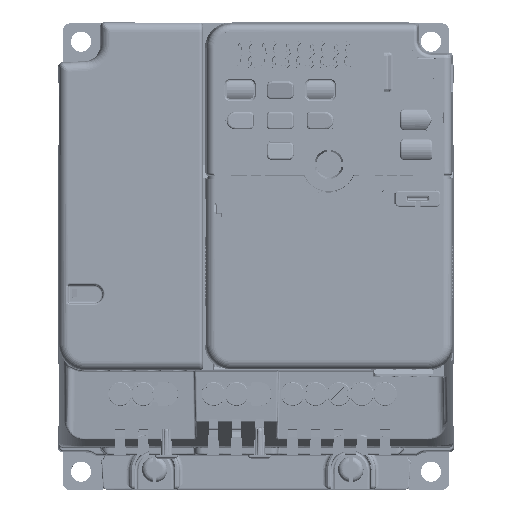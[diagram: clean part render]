
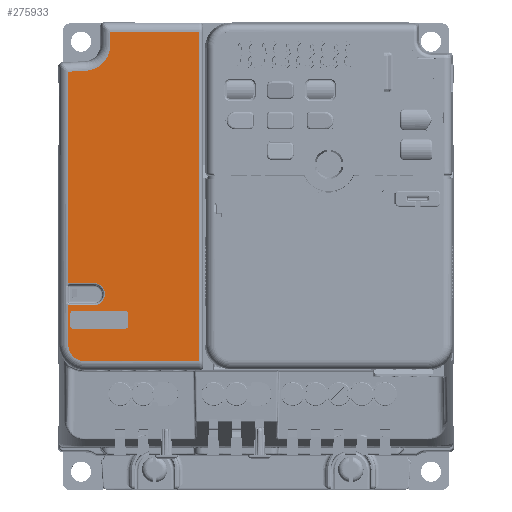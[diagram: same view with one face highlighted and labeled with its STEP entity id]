
A CAD part, top view. The second image highlights one B-rep face of the part: STEP entity #275933.
In plain terms, the highlighted planar face has unit normal (0, 0, 1).
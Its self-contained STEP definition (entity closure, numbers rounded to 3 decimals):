
#222547=DIRECTION('',(1.,0.,0.));
#222548=VECTOR('',#222547,31.378);
#222549=CARTESIAN_POINT('',(-47.,35.1,70.8));
#222550=LINE('',#222549,#222548);
#222566=DIRECTION('',(0.999,0.052,0.));
#222567=VECTOR('',#222566,4.873);
#222568=CARTESIAN_POINT('',(-51.5,114.525,70.8));
#222569=LINE('',#222568,#222567);
#222570=CARTESIAN_POINT('',(-47.,121.77,70.8));
#222571=DIRECTION('',(0.,0.,1.));
#222572=DIRECTION('',(0.052,-0.999,0.));
#222573=AXIS2_PLACEMENT_3D('',#222570,#222571,#222572);
#222575=CARTESIAN_POINT('',(-47.,39.6,70.8));
#222576=DIRECTION('',(0.,0.,-1.));
#222577=DIRECTION('',(0.,-1.,0.));
#222578=AXIS2_PLACEMENT_3D('',#222575,#222576,#222577);
#222580=CARTESIAN_POINT('',(-51.5,50.566,
70.8));
#222581=CARTESIAN_POINT('',(-51.453,50.542,
70.8));
#222582=CARTESIAN_POINT('',(-51.356,50.502,
70.8));
#222583=CARTESIAN_POINT('',(-51.201,50.465,
70.8));
#222584=CARTESIAN_POINT('',(-51.097,50.456,
70.8));
#222585=CARTESIAN_POINT('',(-51.044,50.456,
70.8));
#222587=CARTESIAN_POINT('',(-44.5,53.5,70.8));
#222588=DIRECTION('',(0.,0.,1.));
#222589=DIRECTION('',(0.,-1.,0.));
#222590=AXIS2_PLACEMENT_3D('',#222587,#222588,#222589);
#222592=CARTESIAN_POINT('',(-44.5,53.5,70.8));
#222593=DIRECTION('',(0.,0.,1.));
#222594=DIRECTION('',(0.058,0.998,0.));
#222595=AXIS2_PLACEMENT_3D('',#222592,#222593,#222594);
#222597=CARTESIAN_POINT('',(-51.044,56.544,
70.8));
#222598=CARTESIAN_POINT('',(-51.097,56.544,
70.8));
#222599=CARTESIAN_POINT('',(-51.202,56.535,
70.8));
#222600=CARTESIAN_POINT('',(-51.356,56.498,
70.8));
#222601=CARTESIAN_POINT('',(-51.453,56.458,
70.8));
#222602=CARTESIAN_POINT('',(-51.5,56.434,70.8));
#222604=CARTESIAN_POINT('',(-50.,45.,70.8));
#222605=DIRECTION('',(0.,0.,1.));
#222606=DIRECTION('',(-1.,0.,0.));
#222607=AXIS2_PLACEMENT_3D('',#222604,#222605,#222606);
#222609=CARTESIAN_POINT('',(-36.,45.,70.8));
#222610=DIRECTION('',(0.,0.,1.));
#222611=DIRECTION('',(0.,-1.,0.));
#222612=AXIS2_PLACEMENT_3D('',#222609,#222610,#222611);
#222614=CARTESIAN_POINT('',(-36.,48.,70.8));
#222615=DIRECTION('',(0.,0.,1.));
#222616=DIRECTION('',(1.,0.,0.));
#222617=AXIS2_PLACEMENT_3D('',#222614,#222615,#222616);
#222619=CARTESIAN_POINT('',(-50.,48.,70.8));
#222620=DIRECTION('',(0.,0.,1.));
#222621=DIRECTION('',(0.,1.,0.));
#222622=AXIS2_PLACEMENT_3D('',#222619,#222620,#222621);
#222634=CARTESIAN_POINT('',(-51.5,50.566,
70.8));
#222636=DIRECTION('',(0.,-1.,
0.));
#222637=VECTOR('',#222636,10.966);
#222638=CARTESIAN_POINT('',(-51.5,50.566,
70.8));
#222639=LINE('',#222638,#222637);
#222650=CARTESIAN_POINT('',(-51.5,114.525,70.8));
#222652=DIRECTION('',(0.,-1.,0.));
#222653=VECTOR('',#222652,58.091);
#222654=CARTESIAN_POINT('',(-51.5,114.525,70.8));
#222655=LINE('',#222654,#222653);
#222701=DIRECTION('',(1.,0.,0.));
#222702=VECTOR('',#222701,6.544);
#222703=CARTESIAN_POINT('',(-51.044,56.544,
70.8));
#222704=LINE('',#222703,#222702);
#222745=DIRECTION('',(-1.,0.,0.));
#222746=VECTOR('',#222745,6.544);
#222747=CARTESIAN_POINT('',(-44.5,50.456,70.8));
#222748=LINE('',#222747,#222746);
#231701=DIRECTION('',(0.,1.,0.));
#231702=VECTOR('',#231701,90.4);
#231703=CARTESIAN_POINT('',(-15.622,35.1,
70.8));
#231704=LINE('',#231703,#231702);
#231717=DIRECTION('',(-1.,0.,0.));
#231718=VECTOR('',#231717,24.378);
#231719=CARTESIAN_POINT('',(-15.622,125.5,
70.8));
#231720=LINE('',#231719,#231718);
#231736=DIRECTION('',(0.,-1.,0.));
#231737=VECTOR('',#231736,3.73);
#231738=CARTESIAN_POINT('',(-40.,125.5,70.8));
#231739=LINE('',#231738,#231737);
#238896=DIRECTION('',(0.,1.,0.));
#238897=VECTOR('',#238896,3.);
#238898=CARTESIAN_POINT('',(-51.,45.,70.8));
#238899=LINE('',#238898,#238897);
#239252=DIRECTION('',(1.,0.,0.));
#239253=VECTOR('',#239252,14.);
#239254=CARTESIAN_POINT('',(-50.,49.,70.8));
#239255=LINE('',#239254,#239253);
#239264=DIRECTION('',(0.,-1.,0.));
#239265=VECTOR('',#239264,3.);
#239266=CARTESIAN_POINT('',(-35.,48.,70.8));
#239267=LINE('',#239266,#239265);
#239276=DIRECTION('',(-1.,0.,0.));
#239277=VECTOR('',#239276,14.);
#239278=CARTESIAN_POINT('',(-36.,44.,70.8));
#239279=LINE('',#239278,#239277);
#253446=VERTEX_POINT('',#222634);
#253447=CARTESIAN_POINT('',(-51.5,39.6,70.8));
#253448=VERTEX_POINT('',#253447);
#253453=VERTEX_POINT('',#222650);
#253454=CARTESIAN_POINT('',(-51.5,56.434,70.8));
#253455=VERTEX_POINT('',#253454);
#253456=CARTESIAN_POINT('',(-46.634,114.78,70.8));
#253457=VERTEX_POINT('',#253456);
#253458=CARTESIAN_POINT('',(-40.,121.77,70.8));
#253459=VERTEX_POINT('',#253458);
#253460=CARTESIAN_POINT('',(-40.,125.5,70.8));
#253461=VERTEX_POINT('',#253460);
#253462=CARTESIAN_POINT('',(-15.622,125.5,
70.8));
#253463=VERTEX_POINT('',#253462);
#253464=CARTESIAN_POINT('',(-15.622,35.1,
70.8));
#253465=VERTEX_POINT('',#253464);
#253466=CARTESIAN_POINT('',(-47.,35.1,70.8));
#253467=VERTEX_POINT('',#253466);
#253468=VERTEX_POINT('',#222585);
#253469=CARTESIAN_POINT('',(-44.5,50.456,70.8));
#253470=VERTEX_POINT('',#253469);
#253471=CARTESIAN_POINT('',(-44.322,56.539,70.8));
#253472=VERTEX_POINT('',#253471);
#253473=CARTESIAN_POINT('',(-44.5,56.544,70.8));
#253474=VERTEX_POINT('',#253473);
#253475=CARTESIAN_POINT('',(-51.044,56.544,
70.8));
#253476=VERTEX_POINT('',#253475);
#253477=CARTESIAN_POINT('',(-51.,45.,70.8));
#253478=CARTESIAN_POINT('',(-51.,48.,70.8));
#253479=VERTEX_POINT('',#253477);
#253480=VERTEX_POINT('',#253478);
#253481=CARTESIAN_POINT('',(-50.,44.,70.8));
#253482=VERTEX_POINT('',#253481);
#253483=CARTESIAN_POINT('',(-36.,44.,70.8));
#253484=VERTEX_POINT('',#253483);
#253485=CARTESIAN_POINT('',(-35.,45.,70.8));
#253486=VERTEX_POINT('',#253485);
#253487=CARTESIAN_POINT('',(-35.,48.,70.8));
#253488=VERTEX_POINT('',#253487);
#253489=CARTESIAN_POINT('',(-36.,49.,70.8));
#253490=VERTEX_POINT('',#253489);
#253491=CARTESIAN_POINT('',(-50.,49.,70.8));
#253492=VERTEX_POINT('',#253491);
#275880=CARTESIAN_POINT('',(0.,0.,70.8));
#275881=DIRECTION('',(0.,0.,1.));
#275882=DIRECTION('',(1.,0.,0.));
#275883=AXIS2_PLACEMENT_3D('',#275880,#275881,#275882);
#275884=PLANE('',#275883);
#275886=ORIENTED_EDGE('',*,*,#275885,.F.);
#275888=ORIENTED_EDGE('',*,*,#275887,.T.);
#275890=ORIENTED_EDGE('',*,*,#275889,.T.);
#275892=ORIENTED_EDGE('',*,*,#275891,.F.);
#275894=ORIENTED_EDGE('',*,*,#275893,.F.);
#275896=ORIENTED_EDGE('',*,*,#275895,.F.);
#275897=ORIENTED_EDGE('',*,*,#275860,.F.);
#275898=ORIENTED_EDGE('',*,*,#275870,.T.);
#275900=ORIENTED_EDGE('',*,*,#275899,.F.);
#275902=ORIENTED_EDGE('',*,*,#275901,.T.);
#275904=ORIENTED_EDGE('',*,*,#275903,.F.);
#275906=ORIENTED_EDGE('',*,*,#275905,.T.);
#275908=ORIENTED_EDGE('',*,*,#275907,.T.);
#275910=ORIENTED_EDGE('',*,*,#275909,.F.);
#275912=ORIENTED_EDGE('',*,*,#275911,.T.);
#275913=EDGE_LOOP('',(#275886,#275888,#275890,#275892,#275894,#275896,#275897,
#275898,#275900,#275902,#275904,#275906,#275908,#275910,#275912));
#275914=FACE_OUTER_BOUND('',#275913,.F.);
#275916=ORIENTED_EDGE('',*,*,#275915,.F.);
#275918=ORIENTED_EDGE('',*,*,#275917,.T.);
#275920=ORIENTED_EDGE('',*,*,#275919,.F.);
#275922=ORIENTED_EDGE('',*,*,#275921,.T.);
#275924=ORIENTED_EDGE('',*,*,#275923,.F.);
#275926=ORIENTED_EDGE('',*,*,#275925,.T.);
#275928=ORIENTED_EDGE('',*,*,#275927,.F.);
#275930=ORIENTED_EDGE('',*,*,#275929,.T.);
#275931=EDGE_LOOP('',(#275916,#275918,#275920,#275922,#275924,#275926,#275928,
#275930));
#275932=FACE_BOUND('',#275931,.F.);
#275933=ADVANCED_FACE('',(#275914,#275932),#275884,.T.);
#222574=CIRCLE('',#222573,7.);
#222579=CIRCLE('',#222578,4.5);
#222586=B_SPLINE_CURVE_WITH_KNOTS('',3,(#222580,#222581,#222582,#222583,#222584,
#222585),.UNSPECIFIED.,.F.,.F.,(4,1,1,4),(0.,0.333,
0.667,1.),.UNSPECIFIED.);
#222591=CIRCLE('',#222590,3.044);
#222596=CIRCLE('',#222595,3.044);
#222603=B_SPLINE_CURVE_WITH_KNOTS('',3,(#222597,#222598,#222599,#222600,#222601,
#222602),.UNSPECIFIED.,.F.,.F.,(4,1,1,4),(0.,0.333,
0.667,1.),.UNSPECIFIED.);
#222608=CIRCLE('',#222607,1.);
#222613=CIRCLE('',#222612,1.);
#222618=CIRCLE('',#222617,1.);
#222623=CIRCLE('',#222622,1.);
#275860=EDGE_CURVE('',#253467,#253465,#222550,.T.);
#275870=EDGE_CURVE('',#253467,#253448,#222579,.T.);
#275885=EDGE_CURVE('',#253453,#253455,#222655,.T.);
#275887=EDGE_CURVE('',#253453,#253457,#222569,.T.);
#275889=EDGE_CURVE('',#253457,#253459,#222574,.T.);
#275891=EDGE_CURVE('',#253461,#253459,#231739,.T.);
#275893=EDGE_CURVE('',#253463,#253461,#231720,.T.);
#275895=EDGE_CURVE('',#253465,#253463,#231704,.T.);
#275899=EDGE_CURVE('',#253446,#253448,#222639,.T.);
#275901=EDGE_CURVE('',#253446,#253468,#222586,.T.);
#275903=EDGE_CURVE('',#253470,#253468,#222748,.T.);
#275905=EDGE_CURVE('',#253470,#253472,#222591,.T.);
#275907=EDGE_CURVE('',#253472,#253474,#222596,.T.);
#275909=EDGE_CURVE('',#253476,#253474,#222704,.T.);
#275911=EDGE_CURVE('',#253476,#253455,#222603,.T.);
#275915=EDGE_CURVE('',#253479,#253480,#238899,.T.);
#275917=EDGE_CURVE('',#253479,#253482,#222608,.T.);
#275919=EDGE_CURVE('',#253484,#253482,#239279,.T.);
#275921=EDGE_CURVE('',#253484,#253486,#222613,.T.);
#275923=EDGE_CURVE('',#253488,#253486,#239267,.T.);
#275925=EDGE_CURVE('',#253488,#253490,#222618,.T.);
#275927=EDGE_CURVE('',#253492,#253490,#239255,.T.);
#275929=EDGE_CURVE('',#253492,#253480,#222623,.T.);
